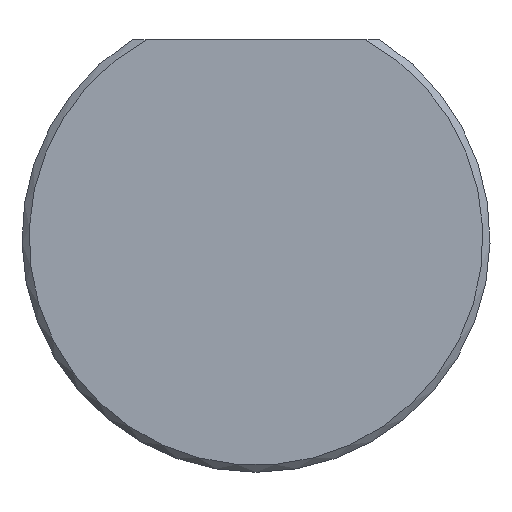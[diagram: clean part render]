
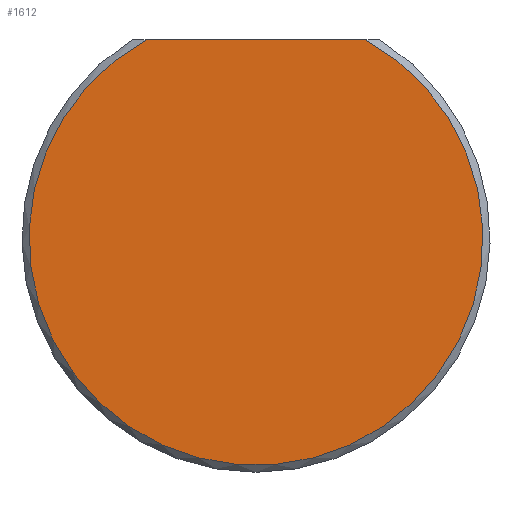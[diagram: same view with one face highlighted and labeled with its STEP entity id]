
A CAD part, front view. The second image highlights one B-rep face of the part: STEP entity #1612.
In plain terms, the highlighted planar face has unit normal (0, -1, 0).
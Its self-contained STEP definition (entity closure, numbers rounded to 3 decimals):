
#139 = VERTEX_POINT ( 'NONE', #538 ) ;
#158 = CARTESIAN_POINT ( 'NONE',  ( 0., 0., 0. ) ) ;
#467 = CARTESIAN_POINT ( 'NONE',  ( 0., 0., 0. ) ) ;
#538 = CARTESIAN_POINT ( 'NONE',  ( 3.873, 0., 7. ) ) ;
#611 = ORIENTED_EDGE ( 'NONE', *, *, #2740, .T. ) ;
#810 = CIRCLE ( 'NONE', #2046, 8. ) ;
#836 = CARTESIAN_POINT ( 'NONE',  ( 0., 0., 7. ) ) ;
#909 = DIRECTION ( 'NONE',  ( 0., -1., 0. ) ) ;
#1290 = LINE ( 'NONE', #836, #2268 ) ;
#1306 = AXIS2_PLACEMENT_3D ( 'NONE', #467, #1923, #1673 ) ;
#1316 = ORIENTED_EDGE ( 'NONE', *, *, #1926, .T. ) ;
#1612 = ADVANCED_FACE ( 'NONE', ( #1739 ), #2396, .F. ) ;
#1673 = DIRECTION ( 'NONE',  ( 0., 0., 1. ) ) ;
#1739 = FACE_OUTER_BOUND ( 'NONE', #2111, .T. ) ;
#1857 = CARTESIAN_POINT ( 'NONE',  ( -3.873, 0., 7. ) ) ;
#1923 = DIRECTION ( 'NONE',  ( 0., 1., 0. ) ) ;
#1926 = EDGE_CURVE ( 'NONE', #139, #2720, #1290, .T. ) ;
#2046 = AXIS2_PLACEMENT_3D ( 'NONE', #158, #909, #2602 ) ;
#2111 = EDGE_LOOP ( 'NONE', ( #1316, #611 ) ) ;
#2268 = VECTOR ( 'NONE', #2522, 1000. ) ;
#2396 = PLANE ( 'NONE',  #1306 ) ;
#2522 = DIRECTION ( 'NONE',  ( -1., 0., 0. ) ) ;
#2602 = DIRECTION ( 'NONE',  ( 0., 0., 1. ) ) ;
#2720 = VERTEX_POINT ( 'NONE', #1857 ) ;
#2740 = EDGE_CURVE ( 'NONE', #2720, #139, #810, .T. ) ;
